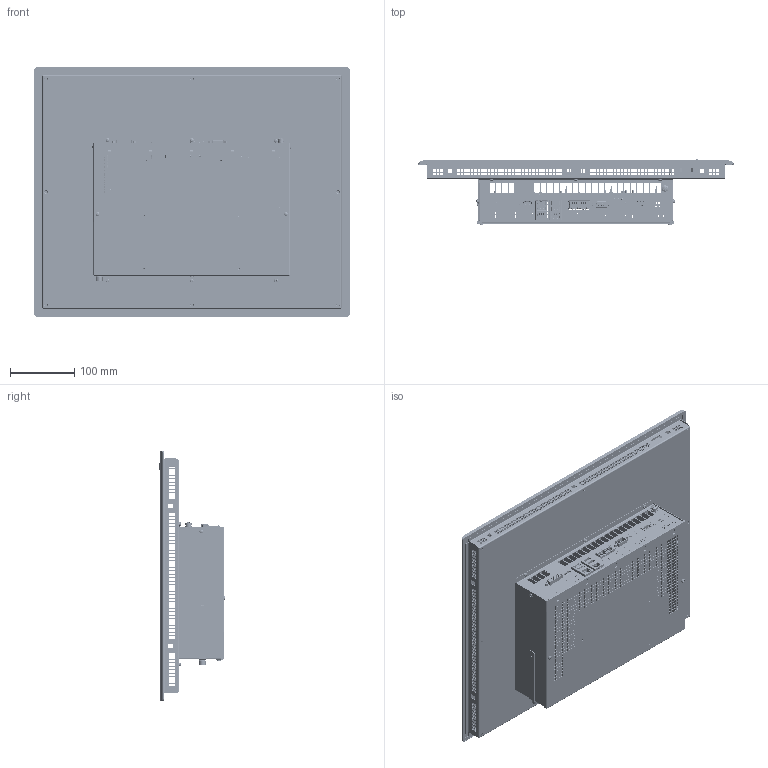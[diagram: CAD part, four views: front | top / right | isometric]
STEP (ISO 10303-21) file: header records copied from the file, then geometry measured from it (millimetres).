
FILE_DESCRIPTION (( 'STEP AP214' ), '1' );
FILE_NAME ('C6P34-Panel_190_Res_S0.STEP', '2019-09-20T08:27:01', ( '' ), ( '' ), 'SwSTEP 2.0', 'SolidWorks 2018', '' );
FILE_SCHEMA (( 'AUTOMOTIVE_DESIGN' ));
Length unit declared in the file: millimetre
Products named in the file (146): 14300025; 52536147_Default<A macchina>; 21614000; 52912002; piazzuola_de800_di370; 14300028; 65720029; 51524089; 66320015; 21408088; 48000065; 21410052; 66320001; 57936013; 23330039; 21405029; 69111028; 59302348; 58502113_Default<A macchina>; 21404036; 58755004; 66320016; 65720078; 65720030; 56636620; C6P34-Panel_190_Res_S0; 57902481; 58702102_Default<A macchina>; 59702265; 62920002; 21409042; 62920012; 51702303_Default<A macchina>; 7397_227; 58702102; 51702303; 62920009; 7359_056; 21410046; 7397_227_Depopolato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
Assembly tree (104 placements, depth 4):
  21614000
  65720029
  51524089
  66320015
  21614000
Bounding box: 490 x 103.83 x 388 mm (x, y, z)
Volume: 1690796.1 mm3; surface area: 1753349.6 mm2
Topology: 192 solids, 210 shells, 24678 faces, 69293 edges, 45382 vertices
Faces by surface type: plane 18863, cylinder 4393, bspline 767, cone 527, torus 108, sphere 20
Full cylindrical faces by diameter (mm): 0.3 x9, 0.434 x1, 0.6 x30, 0.65 x6, 0.7 x165, 0.8 x36, 0.85 x66, 0.9 x175, 0.95 x11, 1 x119, 1.1 x3, 1.2 x10, 1.32 x2, 1.35 x4, 1.4 x8, 1.5 x6, 1.6 x7, 1.7 x4, 1.8 x3, 1.9 x4, 1.95 x4, 2.05 x1, 2.3 x18, 2.4 x9, 2.5 x24, 2.6 x5, 2.8 x3, 2.874 x1, 3 x48, 3.15 x2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
Entity records: 733722 total; most frequent: CARTESIAN_POINT 157083, ORIENTED_EDGE 118794, DIRECTION 105455, EDGE_CURVE 59787, LINE 49919, VECTOR 49919, VERTEX_POINT 39795, EDGE_LOOP 27945
